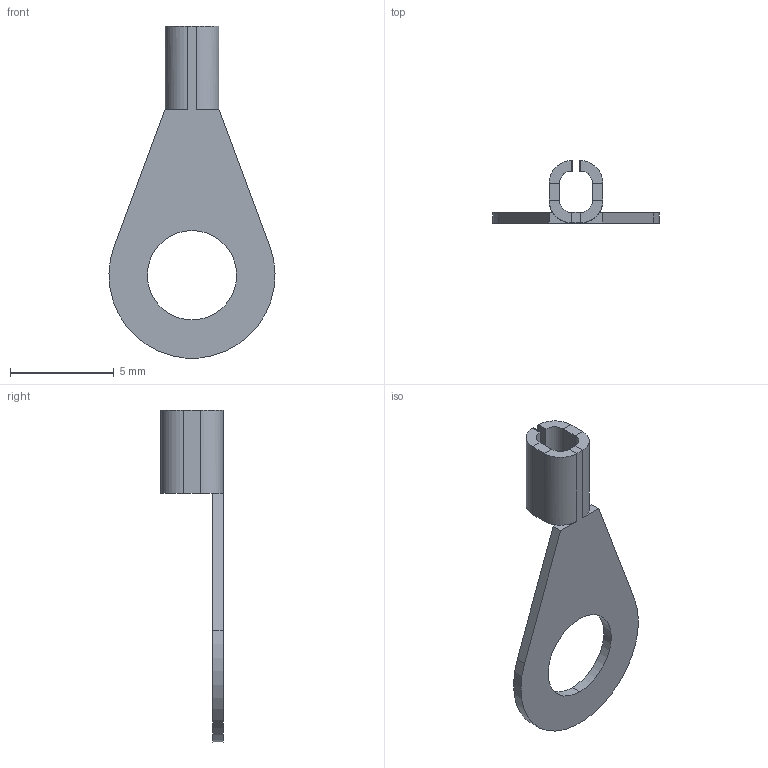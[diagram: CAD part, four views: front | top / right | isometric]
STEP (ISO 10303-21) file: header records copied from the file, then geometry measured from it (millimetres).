
FILE_DESCRIPTION (( 'STEP AP214' ), '1' );
FILE_NAME ('0,5-4-ﾊ-ﾋﾒ-06.STEP', '2013-04-05T11:58:33', ( 'Tester2' ), ( '' ), 'SwSTEP 2.0', 'SolidWorks 2012', '' );
FILE_SCHEMA (( 'AUTOMOTIVE_DESIGN' ));
Length unit declared in the file: millimetre
Products named in the file (1): 0,5-4-ﾊ-ﾋﾒ-06
Bounding box: 8 x 3 x 15.99 mm (x, y, z)
Volume: 42.3 mm3; surface area: 201.9 mm2
Topology: 1 solids, 1 shells, 44 faces, 96 edges, 54 vertices
Faces by surface type: plane 33, cylinder 11
Entity records: 1202 total; most frequent: DIRECTION 210, CARTESIAN_POINT 195, ORIENTED_EDGE 192, EDGE_CURVE 96, LINE 72, VECTOR 72, AXIS2_PLACEMENT_3D 69, VERTEX_POINT 54
